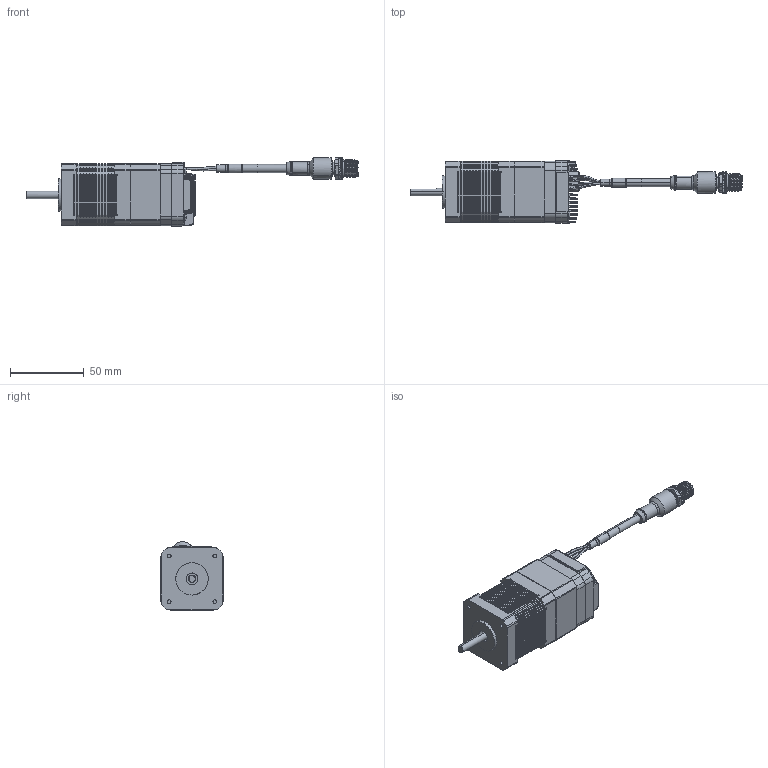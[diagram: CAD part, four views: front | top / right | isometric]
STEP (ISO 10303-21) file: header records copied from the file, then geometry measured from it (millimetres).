
FILE_DESCRIPTION (( 'STEP AP214' ), '1' );
FILE_NAME ('AB-SM-17-WB.STEP', '2024-09-26T18:03:44', ( '' ), ( '' ), 'SwSTEP 2.0', 'SolidWorks 2023', '' );
FILE_SCHEMA (( 'AUTOMOTIVE_DESIGN' ));
Length unit declared in the file: millimetre
Products named in the file (1): AB-SM-17-WB
Bounding box: 225.4 x 42.32 x 46.4 mm (x, y, z)
Surface area: 39225.4 mm2 (no closed solid volume)
Topology: 0 solids, 22 shells, 2928 faces, 7843 edges, 4975 vertices
Faces by surface type: bspline 2927, plane 1
Entity records: 121176 total; most frequent: CARTESIAN_POINT 76433, ORIENTED_EDGE 15534, EDGE_CURVE 7777, B_SPLINE_CURVE_WITH_KNOTS 6093, VERTEX_POINT 4975, EDGE_LOOP 3045, ADVANCED_FACE 2928, FACE_OUTER_BOUND 2928
